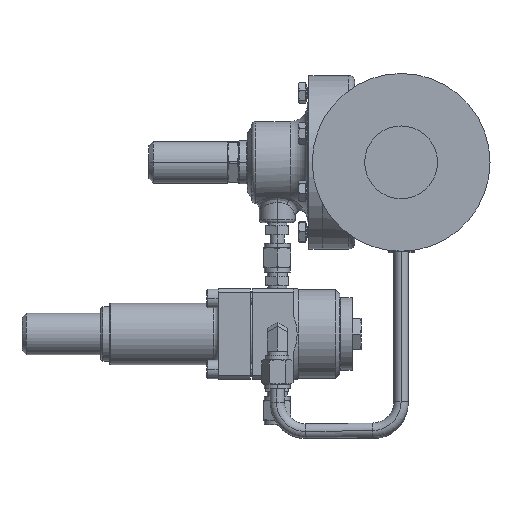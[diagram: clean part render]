
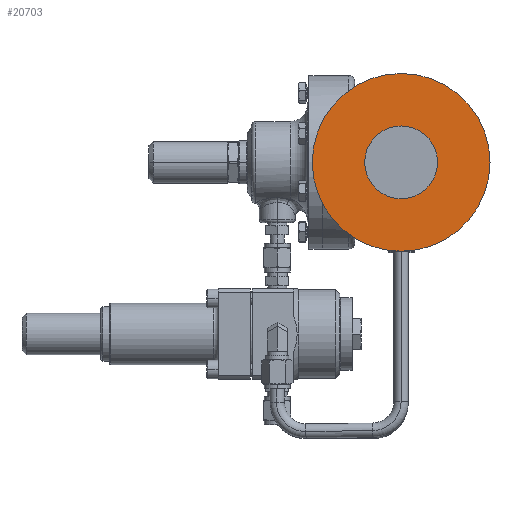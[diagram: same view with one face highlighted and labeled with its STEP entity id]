
A CAD part, left-side view. The second image highlights one B-rep face of the part: STEP entity #20703.
In plain terms, the highlighted planar face has unit normal (-1, 0, 0).
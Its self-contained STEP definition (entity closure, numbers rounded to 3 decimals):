
#598=CARTESIAN_POINT('',(-96.9,-55.,0.));
#599=DIRECTION('',(1.,0.,0.));
#600=DIRECTION('',(0.,-1.,0.));
#601=AXIS2_PLACEMENT_3D('',#598,#599,#600);
#603=CARTESIAN_POINT('',(-96.9,-55.,0.));
#604=DIRECTION('',(1.,0.,0.));
#605=DIRECTION('',(0.,1.,0.));
#606=AXIS2_PLACEMENT_3D('',#603,#604,#605);
#608=CARTESIAN_POINT('',(-96.9,-55.,0.));
#609=DIRECTION('',(-1.,0.,0.));
#610=DIRECTION('',(0.,-1.,0.));
#611=AXIS2_PLACEMENT_3D('',#608,#609,#610);
#613=CARTESIAN_POINT('',(-96.9,-55.,0.));
#614=DIRECTION('',(-1.,0.,0.));
#615=DIRECTION('',(0.,1.,0.));
#616=AXIS2_PLACEMENT_3D('',#613,#614,#615);
#17759=CARTESIAN_POINT('',(-96.9,-117.,0.));
#17760=VERTEX_POINT('',#17759);
#17761=CARTESIAN_POINT('',(-96.9,7.,0.));
#17762=VERTEX_POINT('',#17761);
#17763=CARTESIAN_POINT('',(-96.9,-80.4,0.));
#17764=CARTESIAN_POINT('',(-96.9,-29.6,0.));
#17765=VERTEX_POINT('',#17763);
#17766=VERTEX_POINT('',#17764);
#20688=CARTESIAN_POINT('',(-96.9,-55.,0.));
#20689=DIRECTION('',(-1.,0.,0.));
#20690=DIRECTION('',(0.,1.,0.));
#20691=AXIS2_PLACEMENT_3D('',#20688,#20689,#20690);
#20692=PLANE('',#20691);
#20693=ORIENTED_EDGE('',*,*,#20682,.T.);
#20694=ORIENTED_EDGE('',*,*,#20668,.T.);
#20695=EDGE_LOOP('',(#20693,#20694));
#20696=FACE_OUTER_BOUND('',#20695,.F.);
#20698=ORIENTED_EDGE('',*,*,#20697,.T.);
#20700=ORIENTED_EDGE('',*,*,#20699,.T.);
#20701=EDGE_LOOP('',(#20698,#20700));
#20702=FACE_BOUND('',#20701,.F.);
#20703=ADVANCED_FACE('',(#20696,#20702),#20692,.T.);
#602=CIRCLE('',#601,62.);
#607=CIRCLE('',#606,62.);
#612=CIRCLE('',#611,25.4);
#617=CIRCLE('',#616,25.4);
#20668=EDGE_CURVE('',#17762,#17760,#607,.T.);
#20682=EDGE_CURVE('',#17760,#17762,#602,.T.);
#20697=EDGE_CURVE('',#17765,#17766,#612,.T.);
#20699=EDGE_CURVE('',#17766,#17765,#617,.T.);
